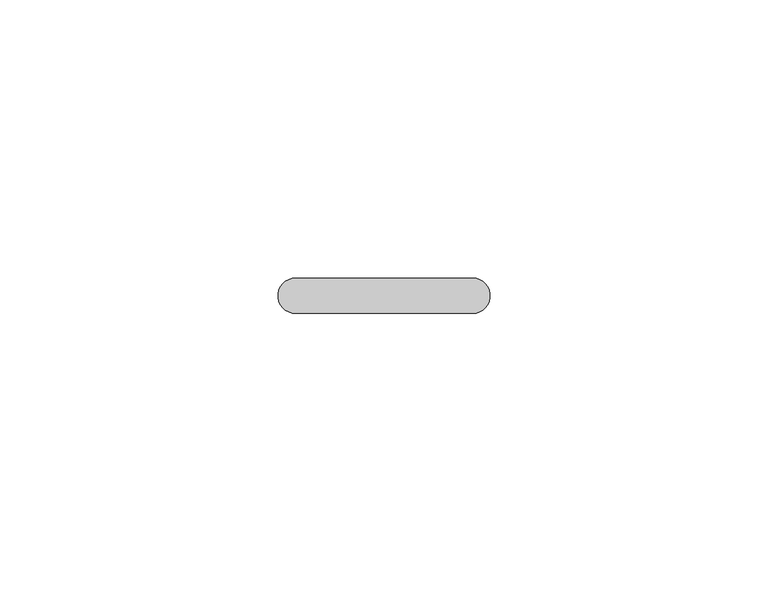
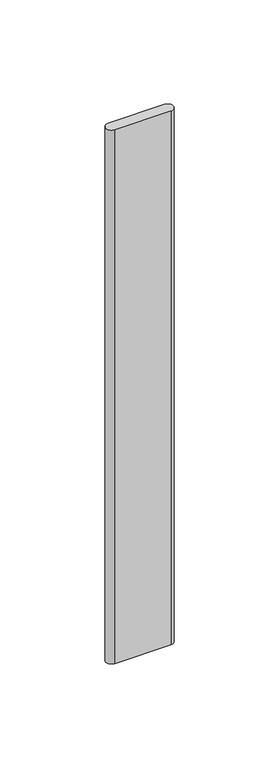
"""IFC4 building model written with IfcOpenShell, lengths in millimetres: proxy geometry, Durabond Generic Model Insulation Adhesive Flat : Durabond Generic Model Insulation Adhesive Flat."""

from ifc_helpers import new_model, si_unit, point, frame_2d, origin, origin_with_axes, place, context, project, spatial, polyline, circle_curve, trimmed, segment, composite_curve, outline, extrude, source, transform, mapped, element, save


def generic_models_f9e3ba3a(model_context):
    return source(origin(), model_context, "Body", "SweptSolid", [
        extrude(outline(composite_curve([segment(trimmed(circle_curve(frame_2d((15.875, 0.0)), 3.175), [point((15.875, 3.175))], [point((15.875, -3.175))], False, "CARTESIAN"), True, "CONTINUOUS"), segment(polyline([(15.875, -3.175), (-15.875, -3.175)]), True, "CONTINUOUS"), segment(trimmed(circle_curve(frame_2d((-15.875, 0.0)), 3.175), [point((-15.875, -3.175))], [point((-15.875, 3.175))], False, "CARTESIAN"), True, "CONTINUOUS"), segment(polyline([(-15.875, 3.175), (15.875, 3.175)]), True, "CONTINUOUS")], self_intersect=False)), origin_with_axes(), (0.0, 0.0, 1.0), 317.5),
    ])


if __name__ == "__main__":
    model = new_model("IFC4")
    model_context = context("Model", 3, world=origin())
    ifc_project = project(units=[si_unit("LENGTHUNIT", "METRE", prefix="MILLI")], contexts=[model_context])
    site = spatial("IfcSite", under=ifc_project)
    building = spatial("IfcBuilding", under=site)
    placement = place(None, origin())
    generic_models_shape = generic_models_f9e3ba3a(model_context)
    element("IfcBuildingElementProxy", 1, Name="Durabond Generic Model Insulation Adhesive Flat : Durabond Generic Model Insulation Adhesive Flat", ObjectType="Durabond Generic Model Insulation Adhesive Flat : Durabond Generic Model Insulation Adhesive Flat", at=placement, inside=building, context=model_context, shape_type="MappedRepresentation", body=[
        mapped(generic_models_shape, transform((0.0, 0.0, 0.0), x_axis=(1.0, 0.0, 0.0), y_axis=(0.0, 1.0, 0.0), z_axis=(0.0, 0.0, 1.0))),
    ])
    save(model, "model.ifc")
